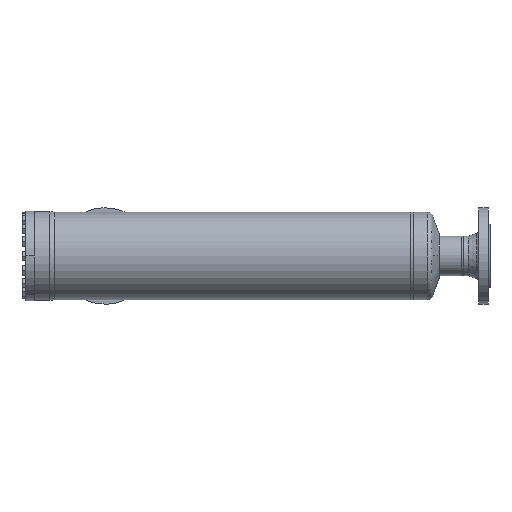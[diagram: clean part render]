
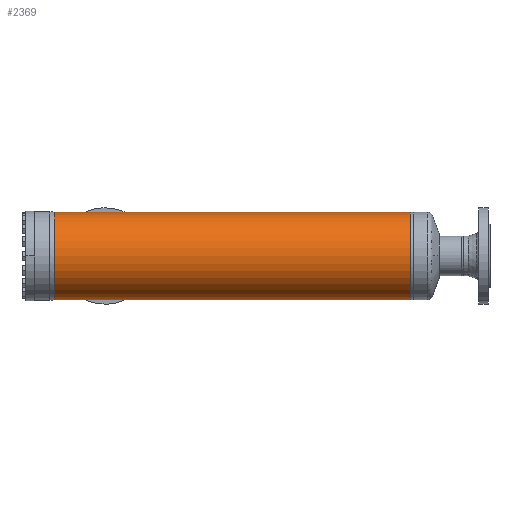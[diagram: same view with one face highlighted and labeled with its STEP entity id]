
A CAD part, left-side view. The second image highlights one B-rep face of the part: STEP entity #2369.
In plain terms, the highlighted cylindrical face has radius 84.15 mm (diameter 168.3 mm), a partial arc.
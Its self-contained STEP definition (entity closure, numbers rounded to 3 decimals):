
#16834 = ORIENTED_EDGE ( 'NONE', *, *, #10265, .F. ) ;
#617 = EDGE_CURVE ( 'NONE', #7216, #6053, #9758, .T. ) ;
#17121 = CARTESIAN_POINT ( 'NONE',  ( 0., 686.536, -84.15 ) ) ;
#17373 = ORIENTED_EDGE ( 'NONE', *, *, #8695, .T. ) ;
#1024 = ORIENTED_EDGE ( 'NONE', *, *, #617, .T. ) ;
#1511 = CARTESIAN_POINT ( 'NONE',  ( 0., 686.536, 84.15 ) ) ;
#1574 = ORIENTED_EDGE ( 'NONE', *, *, #9277, .F. ) ;
#2111 = EDGE_LOOP ( 'NONE', ( #1574, #1024, #17373, #16834 ) ) ;
#2369 = ADVANCED_FACE ( 'NONE', ( #11321 ), #11322, .T. ) ;
#3510 = LINE ( 'NONE', #3511, #3512 ) ;
#3511 = CARTESIAN_POINT ( 'NONE',  ( 0., 0., -84.15 ) ) ;
#3512 = VECTOR ( 'NONE', #3513, 1000. ) ;
#3513 = DIRECTION ( 'NONE',  ( 0., -1., 0. ) ) ;
#4942 = CARTESIAN_POINT ( 'NONE',  ( 0., 3.464, -84.15 ) ) ;
#5946 = CARTESIAN_POINT ( 'NONE',  ( 0., 3.464, 84.15 ) ) ;
#6053 = VERTEX_POINT ( 'NONE', #17121 ) ;
#6345 = LINE ( 'NONE', #6346, #6347 ) ;
#6346 = CARTESIAN_POINT ( 'NONE',  ( 0., 0., 84.15 ) ) ;
#6347 = VECTOR ( 'NONE', #6348, 1000. ) ;
#6348 = DIRECTION ( 'NONE',  ( 0., -1., 0. ) ) ;
#7164 = CIRCLE ( 'NONE', #7165, 84.15 ) ;
#7165 = AXIS2_PLACEMENT_3D ( 'NONE', #7166, #7167, #7168 ) ;
#7166 = CARTESIAN_POINT ( 'NONE',  ( 0., 3.464, 0. ) ) ;
#7167 = DIRECTION ( 'NONE',  ( 0., -1., 0. ) ) ;
#7168 = DIRECTION ( 'NONE',  ( 0., 0., -1. ) ) ;
#7216 = VERTEX_POINT ( 'NONE', #1511 ) ;
#8695 = EDGE_CURVE ( 'NONE', #6053, #9007, #3510, .T. ) ;
#9007 = VERTEX_POINT ( 'NONE', #4942 ) ;
#9229 = VERTEX_POINT ( 'NONE', #5946 ) ;
#9277 = EDGE_CURVE ( 'NONE', #7216, #9229, #6345, .T. ) ;
#9758 = CIRCLE ( 'NONE', #9759, 84.15 ) ;
#9759 = AXIS2_PLACEMENT_3D ( 'NONE', #9760, #9761, #9762 ) ;
#9760 = CARTESIAN_POINT ( 'NONE',  ( 0., 686.536, 0. ) ) ;
#9761 = DIRECTION ( 'NONE',  ( 0., -1., 0. ) ) ;
#9762 = DIRECTION ( 'NONE',  ( 0., 0., -1. ) ) ;
#10265 = EDGE_CURVE ( 'NONE', #9229, #9007, #7164, .T. ) ;
#11321 = FACE_OUTER_BOUND ( 'NONE', #2111, .T. ) ;
#11322 = CYLINDRICAL_SURFACE ( 'NONE', #11323, 84.15 ) ;
#11323 = AXIS2_PLACEMENT_3D ( 'NONE', #11324, #11325, #11326 ) ;
#11324 = CARTESIAN_POINT ( 'NONE',  ( 0., 0., 0. ) ) ;
#11325 = DIRECTION ( 'NONE',  ( 0., -1., 0. ) ) ;
#11326 = DIRECTION ( 'NONE',  ( 0., 0., -1. ) ) ;
